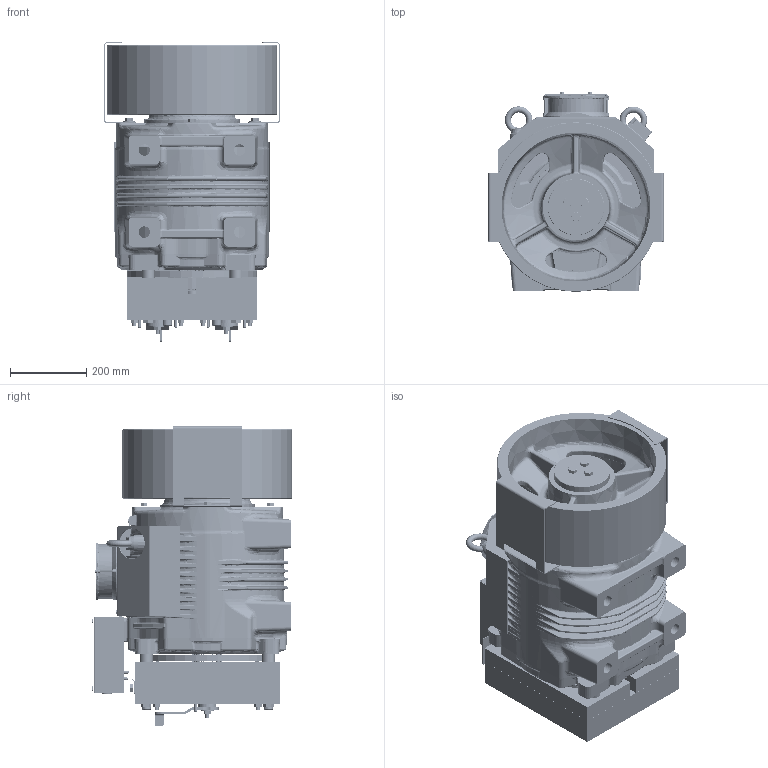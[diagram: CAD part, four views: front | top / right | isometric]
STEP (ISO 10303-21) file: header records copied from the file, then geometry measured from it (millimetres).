
FILE_DESCRIPTION((''),'2;1');
FILE_NAME('00363634_ASM','2020-06-16T',('furlanis'),('Sicor spa'),'CREO PARAMETRIC BY PTC INC, 2017170','CREO PARAMETRIC BY PTC INC, 2017170','');
FILE_SCHEMA(('CONFIG_CONTROL_DESIGN'));
Products named in the file (21): SG62_; _440_182; _440; 00261097; M4_FTT_L; M4_FTT_C; M3_FTT_C; 00261096_ASM; 00008906; 00024268; 00024286_ASM; 00024307; 00259719_M4X60; 00022368; 2080010002; VITI_TC_M4X25_VIT0066; VITI_TC_M3X16_VIT0064; TEM6X12_VIR0184; 00000263; 00268202_ASM; 00363634_ASM
Assembly tree (32 placements, depth 4):
  00363634_ASM
    SG62_
    _440_182
    _440  x2
    00268202_ASM
      00261096_ASM
        00261097
        M4_FTT_L  x2
        M4_FTT_C  x4
        M3_FTT_C  x2
      00024286_ASM
        00008906
        00024268
      00024307
      00259719_M4X60  x2
      00022368
      2080010002
      VITI_TC_M4X25_VIT0066  x2
      VITI_TC_M3X16_VIT0064  x2
      TEM6X12_VIR0184  x4
      00000263
Bounding box: 459 x 523.9 x 783.64 mm (x, y, z)
Volume: 12333672.6 mm3; surface area: 5314462.8 mm2
Topology: 28 solids, 207 shells, 5114 faces, 14132 edges, 8983 vertices
Faces by surface type: plane 1379, bspline 1244, cylinder 1205, torus 647, cone 575, sphere 64
Entity records: 262171 total; most frequent: CARTESIAN_POINT 152248, ORIENTED_EDGE 24208, DIRECTION 19108, EDGE_CURVE 13538, VERTEX_POINT 8660, AXIS2_PLACEMENT_3D 7583, B_SPLINE_CURVE_WITH_KNOTS 5723, EDGE_LOOP 5086
